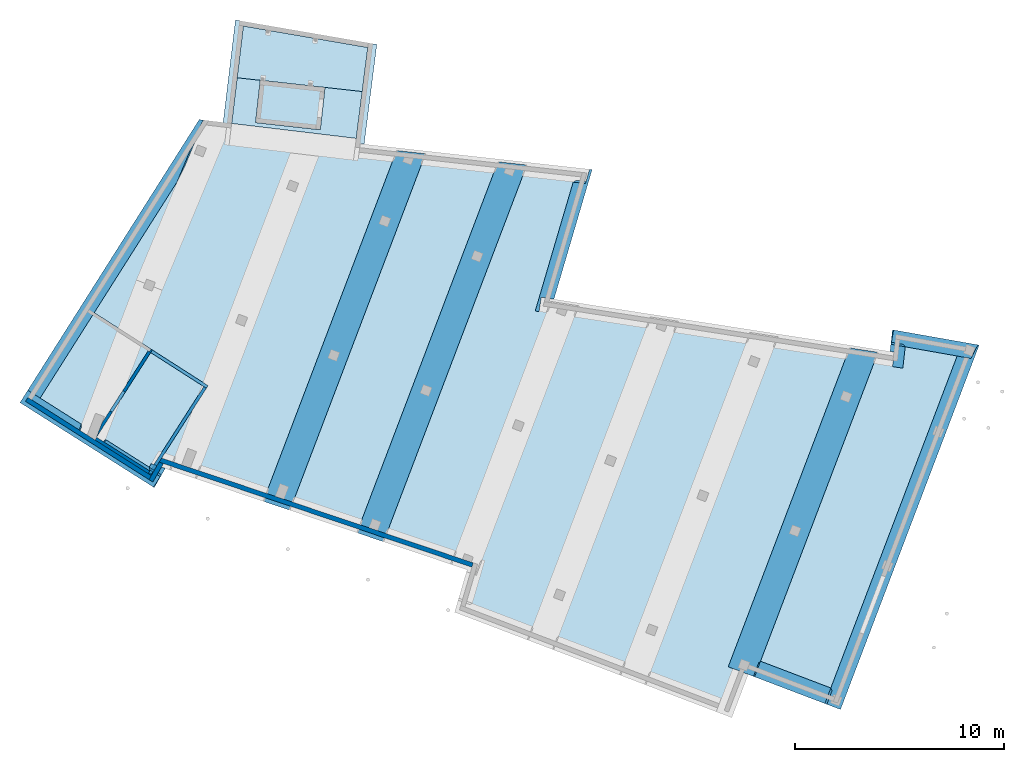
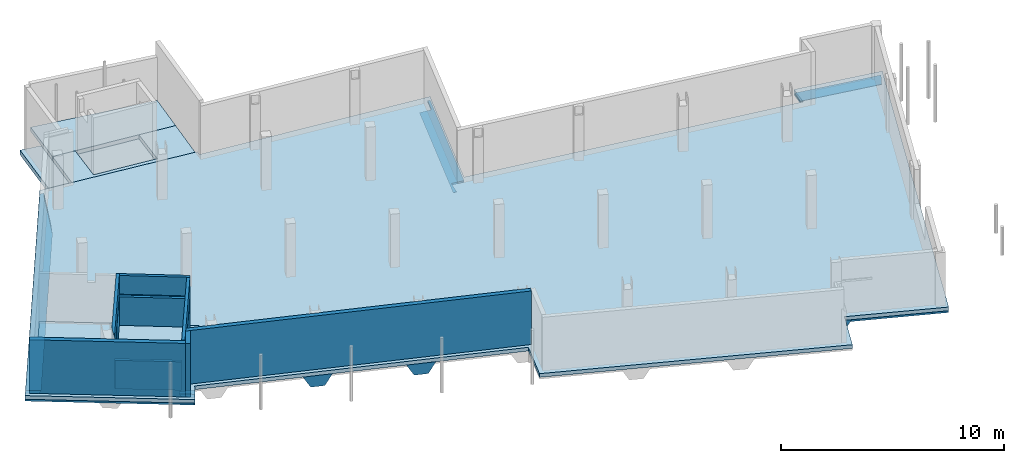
# One storey, part 6 of 11: 11 beams, 10 walls, 5 slabs, 1 opening.
"""IFC2X3 building model written with IfcOpenShell, lengths in millimetres."""

from ifc_helpers import new_model, entity, si_unit, converted_unit, derived_unit, direction, frame, frame_2d, origin, place, context, subcontext, project, spatial, polyline, rectangle, outline, extrude, clip, halfspace, bounded_halfspace, faceted_brep, material, layer, layer_set, layer_usage, type_object, element, save


model = new_model("IFC2X3")

# Units and contexts
model_context = context("Model", 3, precision=0.01, world=origin(), true_north=direction((6.123233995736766e-17, 1.0)))
body_context = subcontext(model_context, "Body", "Model", "MODEL_VIEW")
ifc_project = project(units=[si_unit("LENGTHUNIT", "METRE", prefix="MILLI"), converted_unit("PLANEANGLEUNIT", "DEGREE", entity("IfcPlaneAngleMeasure", 0.017453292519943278), si_unit("PLANEANGLEUNIT", "RADIAN"), dimensions=[0, 0, 0, 0, 0, 0, 0]), si_unit("AREAUNIT", "SQUARE_METRE"), derived_unit("THERMALTRANSMITTANCEUNIT", [(si_unit("MASSUNIT", "GRAM", prefix="KILO"), 1), (si_unit("THERMODYNAMICTEMPERATUREUNIT", "KELVIN"), -1), (si_unit("TIMEUNIT", "SECOND"), -3)])], contexts=[model_context])

# Site, building, storey
site_placement = place(None, frame((-72937.88054949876, 11621.45624098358, 0.0), z_axis=(0.0, 0.0, 1.0), x_axis=(0.9346418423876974, -0.35559053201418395, 0.0)))
site = spatial("IfcSite", under=ifc_project, at=site_placement, Name="Default", CompositionType="ELEMENT")
building_placement = place(site_placement, origin())
building = spatial("IfcBuilding", under=site, at=building_placement, CompositionType="ELEMENT")
storey_placement = place(building_placement, frame((0.0, 0.0, -3160.0)))
storey = spatial("IfcBuildingStorey", under=building, at=storey_placement, Name="-1 kelder", CompositionType="ELEMENT", Elevation=-3160.0)

# Beams
ifc_material_1 = material(Name="beton_gewapend_ihw")
beam_type_1 = type_object("IfcBeamType", Name="650x600mm", PredefinedType="BEAM")
beam_1_placement = place(storey_placement, frame((29190.0, 14252.403395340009, -200.0), z_axis=(0.0, 0.0, 1.0), x_axis=(0.0, 1.0, 0.0)))
element("IfcBeam", 1, at=beam_1_placement, inside=storey, type_object=beam_type_1, material=ifc_material_1, Name="16.12_Beton balk", ObjectType="i.h.w.g. versterkte betonnen strook", context=body_context, shape_type="SweptSolid", body=[
    clip(clip(extrude(outline(polyline([(-325.0, -300.0), (325.0, -300.0), (675.0, 300.0), (-675.0, 300.0), (-325.0, -300.0)])), frame((73.28059421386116, 0.0, -300.0), z_axis=(1.0, 0.0, 0.0), x_axis=(0.0, 1.0, 0.0)), (0.0, 0.0, 1.0), 19367.69822920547), halfspace(frame((19079.916189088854, 723.0886842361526, 19180.0), z_axis=(0.9682328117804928, 0.2500504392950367, 0.0), x_axis=(0.0, 0.0, -1.0)), False)), halfspace(frame((130.96403280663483, -782.2300507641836, 19180.0), z_axis=(-0.9992174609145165, -0.03955332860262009, 0.0), x_axis=(0.0, 0.0, -1.0)), False)),
])
beam_2_placement = place(storey_placement, frame((24460.0, 14105.169633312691, -200.0), z_axis=(0.0, 0.0, 1.0), x_axis=(0.0, 1.0, 0.0)))
element("IfcBeam", 2, at=beam_2_placement, inside=storey, type_object=beam_type_1, material=ifc_material_1, Name="16.12_Beton balk", ObjectType="i.h.w.g. versterkte betonnen strook", context=body_context, shape_type="SweptSolid", body=[
    clip(clip(extrude(outline(polyline([(-325.0, -300.0), (325.0, -300.0), (675.0, 300.0), (-675.0, 300.0), (-325.0, -300.0)])), frame((33.28059421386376, 0.0, -300.0), z_axis=(1.0, 0.0, 0.0), x_axis=(0.0, 1.0, 0.0)), (0.0, 0.0, 1.0), 18333.38840845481), halfspace(frame((17998.169867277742, 751.8839319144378, 18160.0), z_axis=(0.9682328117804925, 0.2500504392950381, 0.0), x_axis=(0.0, 0.0, -1.0)), False)), halfspace(frame((89.43372026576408, -743.570472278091, 18160.0), z_axis=(-0.9992174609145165, -0.03955332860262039, 0.0), x_axis=(0.0, 0.0, -1.0)), False)),
])
beam_3_placement = place(storey_placement, frame((48110.0, 14650.0, -200.0), z_axis=(0.0, 0.0, 1.0), x_axis=(0.0, 1.0, 0.0)))
element("IfcBeam", 3, at=beam_3_placement, inside=storey, type_object=beam_type_1, material=ifc_material_1, Name="16.12_Beton balk", ObjectType="i.h.w.g. versterkte betonnen strook", context=body_context, shape_type="SweptSolid", body=[
    clip(extrude(outline(polyline([(-325.0, -300.0), (325.0, -300.0), (675.0, 300.0), (-675.0, 300.0), (-325.0, -300.0)])), frame((0.0, 0.0, -300.0), z_axis=(1.0, 0.0, 0.0), x_axis=(0.0, 1.0, 0.0)), (0.0, 0.0, 1.0), 16638.079984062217), halfspace(frame((16654.269103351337, -751.2321760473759, -16960.0), z_axis=(0.9781855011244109, 0.20773330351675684, 0.0), x_axis=(0.0, 0.0, 1.0)), False)),
])
beam_type_2 = type_object("IfcBeamType", Name="650x600mm", PredefinedType="BEAM")
beam_4_placement = place(storey_placement, frame((52390.0, 14650.0, -300.0), z_axis=(0.0, 0.0, 1.0), x_axis=(0.0, 1.0, 0.0)))
element("IfcBeam", 4, at=beam_4_placement, inside=storey, type_object=beam_type_2, material=ifc_material_1, Name="16.12_Beton balk", ObjectType="i.h.w.g. versterkte betonnen strook", context=body_context, shape_type="Brep", body=[
    faceted_brep([(0.0, -100.0, 0.0), (0.0, 0.0, 100.0), (800.0, 0.0, 100.0), (17820.452758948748, 0.0, 100.0), (17941.36320135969, -100.0, 0.0), (700.0, -100.0, 0.0), (0.0, -800.0, 0.0), (18050.450203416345, -671.0673696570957, 0.0), (18675.17564065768, -743.7108873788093, 0.0), (18685.928155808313, -800.0, 0.0), (18685.92815580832, -800.0, 100.0), (0.0, -800.0, 100.0), (18675.17564065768, -743.7108873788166, 100.0), (17946.32929720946, -658.9601167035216, 100.0)], [[[0, 1, 2, 3, 4, 5]], [[6, 0, 5, 4, 7, 8, 9]], [[10, 11, 6, 9]], [[11, 10, 12, 13, 3, 2, 1]], [[0, 6, 11, 1]], [[10, 9, 8, 12]], [[13, 7, 4, 3]], [[7, 13, 12, 8]]]),
])
beam_5_placement = place(storey_placement, frame((48460.0, 14650.0, 0.0)))
element("IfcBeam", 5, at=beam_5_placement, inside=storey, type_object=beam_type_2, material=ifc_material_1, Name="16.12_Beton balk", ObjectType="i.h.w.g. versterkte betonnen strook", context=body_context, shape_type="SweptSolid", body=[
    clip(clip(extrude(outline(polyline([(-50.0, -375.0), (50.0, -375.0), (50.0, 325.0), (-50.0, 425.0), (-50.0, -375.0)])), frame((266.6666666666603, 375.0, -250.0), z_axis=(1.0, 0.0, 0.0), x_axis=(0.0, 0.0, -1.0)), (0.0, 0.0, 1.0), 3763.333333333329), halfspace(frame((-25.0, 0.0, -800.0), z_axis=(-0.863778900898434, 0.0, 0.5038710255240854), x_axis=(0.0, 1.0, 0.0)), False)), halfspace(frame((3730.0, 1152.4000000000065, 0.0), z_axis=(0.7071067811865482, 0.0, 0.707106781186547), x_axis=(0.0, 1.0, 0.0)), False)),
])
beam_type_3 = type_object("IfcBeamType", Name="650x600mm", PredefinedType="BEAM", material=ifc_material_1)
beam_6_placement = place(storey_placement, frame((11210.140041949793, 12902.18547272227, -300.0), z_axis=(0.0, 0.0, 1.0), x_axis=(0.9798626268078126, -0.19967281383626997, 0.0)))
element("IfcBeam", 6, at=beam_6_placement, inside=storey, type_object=beam_type_3, material=ifc_material_1, Name="16.12_Beton balk", ObjectType="i.h.w.g. versterkte betonnen strook", context=body_context, shape_type="Brep", body=[
    faceted_brep([(-302.0870984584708, 2182.4444656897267, 100.0), (397.9129015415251, 2182.4444656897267, 100.0), (2734.1436005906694, 2182.4444656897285, 100.0), (2814.0533885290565, 2082.444465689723, 0.0), (297.91290154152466, 2082.4444656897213, 0.0), (-302.0870984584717, 2082.444465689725, 0.0), (7274.860810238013, 2082.444465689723, 0.0), (7274.860810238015, 1482.4444656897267, 0.0), (-302.0870984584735, 1482.4444656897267, 0.0), (2872.129643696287, 1797.4444656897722, 0.0), (4130.809482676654, 1797.4444656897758, 0.0), (4072.7332275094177, 2082.444465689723, 0.0), (6686.946603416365, 2082.444465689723, 0.0), (7274.8608102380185, 1482.4444656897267, 100.0), (-302.08709845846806, 1482.4444656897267, 100.0), (7274.860810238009, 2182.4444656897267, 100.0), (6582.652845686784, 2182.4444656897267, 100.0), (4111.88774866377, 2182.4444656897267, 100.0), (4190.34163722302, 1797.4444656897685, 100.0), (2812.5974891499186, 1797.444465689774, 100.0)], [[[0, 1, 2, 3, 4, 5]], [[6, 7, 8, 5, 4, 3, 9, 10, 11, 12]], [[8, 7, 13, 14]], [[7, 6, 15, 13]], [[2, 1, 0, 14, 13, 15, 16, 17, 18, 19]], [[19, 9, 3, 2]], [[10, 18, 17, 11]], [[9, 19, 18, 10]], [[17, 16, 15, 6, 12, 11]], [[5, 8, 14, 0]]]),
])
beam_7_placement = place(storey_placement, frame((18096.01037819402, 12894.628188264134, -300.0), z_axis=(0.0, 0.0, 1.0), x_axis=(0.1583260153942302, 0.9873868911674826, 0.0)))
element("IfcBeam", 7, at=beam_7_placement, inside=storey, type_object=beam_type_3, material=ifc_material_1, Name="16.12_Beton balk", ObjectType="i.h.w.g. versterkte betonnen strook", context=body_context, shape_type="Brep", body=[
    faceted_brep([(1031.8559354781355, 31.675984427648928, 0.0), (716.8924546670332, 31.675984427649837, 0.0), (821.1862123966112, 131.67598442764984, 100.0), (1011.7349404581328, 131.6759844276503, 100.0), (692.1903141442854, -555.7190435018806, 0.0), (1152.5819055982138, -568.324015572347, 0.0), (91.12990828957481, -568.3240155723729, 0.0), (92.72016583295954, -530.5090993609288, 0.0), (1152.5819055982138, -568.324015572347, 100.0), (91.129908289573, -568.324015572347, 100.0), (92.7201658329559, -530.5090993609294, 100.0), (792.1020055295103, -559.9207008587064, 100.0)], [[[0, 1, 2, 3]], [[4, 1, 0, 5, 6, 7]], [[6, 5, 8, 9]], [[7, 6, 9, 10]], [[1, 4, 11, 2]], [[5, 0, 3, 8]], [[3, 2, 11, 10, 9, 8]], [[4, 7, 10, 11]]]),
])
beam_8_placement = place(storey_placement, frame((11329.943730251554, 14883.20986972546, -300.0), z_axis=(0.0, 0.0, 1.0), x_axis=(-0.19967281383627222, -0.979862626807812, 0.0)))
element("IfcBeam", 8, at=beam_8_placement, inside=storey, type_object=beam_type_3, material=ifc_material_1, Name="16.12_Beton balk", ObjectType="i.h.w.g. versterkte betonnen strook", context=body_context, shape_type="Brep", body=[
    faceted_brep([(-13406.319318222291, 576.0784604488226, 0.0), (-12477.776913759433, 676.0784604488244, 100.0), (-217.391156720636, 676.0784604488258, 100.0), (-117.39115672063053, 576.0784604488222, 0.0), (-15672.674395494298, 187.5467018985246, 0.0), (-117.39115672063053, -23.92153955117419, 0.0), (-15571.769329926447, -23.921539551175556, 0.0), (-15571.769329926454, -23.921539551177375, 100.0), (-217.39115672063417, -23.921539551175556, 100.0), (-15452.653497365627, 166.0815751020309, 100.0), (-15662.432006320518, 166.0815751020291, 100.0), (-15662.432006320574, 166.0815751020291, 39.23509359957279)], [[[0, 1, 2, 3]], [[4, 0, 3, 5, 6]], [[7, 6, 5, 8]], [[1, 9, 10, 7, 8, 2]], [[11, 9, 1, 0, 4]], [[3, 2, 8, 5]], [[9, 11, 10]], [[6, 7, 10, 11, 4]]]),
])
beam_9_placement = place(storey_placement, frame((32229.95961331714, 27295.11920070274, -300.0), z_axis=(0.0, 0.0, 1.0), x_axis=(-0.07713007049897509, 0.997021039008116, 0.0)))
element("IfcBeam", 9, at=beam_9_placement, inside=storey, type_object=beam_type_3, material=ifc_material_1, Name="16.12_Beton balk", ObjectType="i.h.w.g. versterkte betonnen strook", context=body_context, shape_type="Brep", body=[
    faceted_brep([(6401.197099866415, -495.19996496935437, 100.0), (6520.492657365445, -595.1999649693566, 0.0), (681.1211182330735, -595.1999649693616, 0.0), (680.0036277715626, -586.7866043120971, 8.413360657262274), (616.6611295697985, -595.1999649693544, 0.0), (75.85164768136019, -595.1999649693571, 0.0), (-38.30892901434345, -495.199964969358, 100.0), (85.2272223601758, -665.7867787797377, 0.0), (7236.266002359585, -1195.199964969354, 0.0), (7236.266002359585, -1195.199964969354, 100.0), (760.815107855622, -1195.199964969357, 100.0), (760.8151078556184, -1195.199964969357, 0.0), (6605.684108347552, -1075.5558515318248, 0.0), (6504.123620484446, -1075.5558515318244, 100.0), (-13.902178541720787, -678.9534745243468, 100.0), (680.0036277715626, -586.7866043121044, 100.0), (7215.047035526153, -1075.555851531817, 100.0), (7215.047035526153, -1075.5558515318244, 0.0)], [[[0, 1, 2, 3, 4, 5, 6]], [[7, 5, 4]], [[8, 9, 10, 11]], [[12, 1, 0, 13]], [[0, 6, 14, 15, 10, 9, 16, 13]], [[6, 5, 7, 14]], [[3, 15, 14, 7, 4]], [[15, 3, 2, 11, 10]], [[8, 17, 16, 9]], [[17, 12, 13, 16]], [[1, 12, 17, 8, 11, 2]]]),
])
beam_10_placement = place(storey_placement, frame((53133.71088737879, 33325.175640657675, 0.0), z_axis=(0.0, 0.0, 1.0), x_axis=(-0.9822397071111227, -0.18763037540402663, 0.0)))
element("IfcBeam", 10, at=beam_10_placement, inside=storey, type_object=beam_type_3, material=ifc_material_1, Name="16.12_Beton balk", ObjectType="i.h.w.g. versterkte betonnen strook", context=body_context, shape_type="SweptSolid", body=[
    clip(extrude(outline(polyline([(-50.0, -325.0), (50.0, -325.0), (50.0, 275.0), (-50.0, 375.0), (-50.0, -325.0)])), frame((0.0, 325.0, -250.0), z_axis=(1.0, 0.0, 0.0), x_axis=(0.0, 0.0, -1.0)), (0.0, 0.0, 1.0), 4105.526742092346), halfspace(frame((-34.639754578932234, -110.21775904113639, 4013.403162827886), z_axis=(-0.9539939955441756, 0.2998257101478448, 0.0), x_axis=(0.0, 0.0, -1.0)), False)),
])
beam_11_placement = place(storey_placement, frame((49044.2509841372, 30894.17498784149, -300.0), z_axis=(0.0, 0.0, 1.0), x_axis=(0.25027842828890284, -0.9681739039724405, 0.0)))
element("IfcBeam", 11, at=beam_11_placement, inside=storey, type_object=beam_type_3, material=ifc_material_1, Name="16.12_Beton balk", ObjectType="i.h.w.g. versterkte betonnen strook", context=body_context, shape_type="Brep", body=[
    faceted_brep([(-850.851539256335, 1112.914295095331, 100.0), (179.63511667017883, 1112.91429509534, 100.0), (75.16565499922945, 1012.914295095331, 0.0), (-957.4888097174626, 1012.914295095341, 0.0), (-994.8350252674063, 432.1666682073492, 0.0), (57.72369653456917, 614.1365350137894, 0.0), (-541.7032075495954, 640.3545948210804, 0.0), (-551.6511150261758, 412.9142950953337, 0.0), (-1597.312432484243, 412.9142950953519, 0.0), (-1593.5982376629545, 470.67141443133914, 0.0), (-551.651115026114, 412.914295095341, 100.0), (-1597.3124324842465, 412.91429509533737, 100.0), (-1593.5982376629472, 470.6714144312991, 100.0), (-895.0411565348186, 425.74921050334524, 100.0), (-541.7032075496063, 640.3545948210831, 100.0), (157.62818054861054, 609.766858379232, 100.0)], [[[0, 1, 2, 3]], [[4, 3, 2, 5, 6, 7, 8, 9]], [[10, 11, 8, 7]], [[9, 8, 11, 12]], [[3, 4, 13, 0]], [[1, 0, 13, 12, 11, 10, 14, 15]], [[6, 14, 10, 7]], [[14, 6, 5, 15]], [[2, 1, 15, 5]], [[4, 9, 12, 13]]]),
])

# Slabs
ifc_layer_1 = layer(ifc_material_1, 200.0)
ifc_layer_set_1 = layer_set([ifc_layer_1], Name="Foundation Slab:13.22_SFO_Beton200mm")
ifc_layer_usage_1 = layer_usage(ifc_layer_set_1, "AXIS3", "POSITIVE", 0.0)
slab_type_1 = type_object("IfcSlabType", Name="13.22_SFO_Beton200mm", PredefinedType="BASESLAB", material=ifc_layer_set_1)
slab_1_placement = place(storey_placement, origin())
element("IfcSlab", 12, at=slab_1_placement, inside=storey, type_object=slab_type_1, material=ifc_layer_usage_1, Name="Foundation Slab:13.22_SFO_Beton200mm", ObjectType="Foundation Slab:13.22_SFO_Beton200mm", PredefinedType="BASESLAB", context=body_context, shape_type="SweptSolid", body=[
    extrude(outline(polyline([(-14512.940702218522, -10320.356680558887), (-302.8335830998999, -10320.356680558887), (-136.38858467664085, -8207.23163094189), (15107.409536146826, -8810.646783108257), (15275.465001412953, -9858.710570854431), (22736.919255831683, -8338.242777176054), (19531.296391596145, 7392.842391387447), (12071.461685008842, 9251.54032371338), (12016.787173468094, 9025.129847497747), (1083.5938804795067, 11848.675747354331), (584.1418964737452, 5392.514968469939), (-15358.898157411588, 8778.273983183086), (-15097.191686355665, 9790.655983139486), (-19242.940702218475, 10582.589396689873), (-19242.940702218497, -8103.338759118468), (-14512.940702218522, -8103.338759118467), (-14512.940702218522, -10320.356680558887)])), frame((33947.059297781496, 22753.338759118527, 0.0), z_axis=(0.0, 0.0, -1.0), x_axis=(-1.0, 0.0, 0.0)), (0.0, 0.0, 1.0), 200.0),
])
ifc_layer_2 = layer(ifc_material_1, 250.00000000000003)
ifc_layer_set_2 = layer_set([ifc_layer_2], Name="Foundation Slab:13.22_SFO_Beton250mm")
ifc_layer_usage_2 = layer_usage(ifc_layer_set_2, "AXIS3", "POSITIVE", 0.0)
slab_type_2 = type_object("IfcSlabType", Name="13.22_SFO_Beton250mm", PredefinedType="BASESLAB", material=ifc_layer_set_2)
slab_2_placement = place(storey_placement, origin())
element("IfcSlab", 13, at=slab_2_placement, inside=storey, type_object=slab_type_2, material=ifc_layer_usage_2, Name="Foundation Slab:13.22_SFO_Beton250mm", ObjectType="Foundation Slab:13.22_SFO_Beton250mm", PredefinedType="BASESLAB", context=body_context, shape_type="SweptSolid", body=[
    extrude(outline(polyline([(-3557.5861498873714, -2491.008907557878), (3318.5077979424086, -2491.0089075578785), (3531.1005213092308, 2315.3507589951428), (-3292.022169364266, 2666.667056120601), (-3557.5861498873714, -2491.008907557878)])), frame((18309.122658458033, 33459.63296960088, -1300.0), z_axis=(0.0, 0.0, -1.0), x_axis=(0.9814821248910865, 0.19155374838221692, 0.0)), (0.0, 0.0, 1.0), 250.00000000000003),
])
ifc_material_2 = material(Name="beton_gewapend_ihw_c20/25")
ifc_layer_3 = layer(ifc_material_2, 50.0)
ifc_material_3 = material(Name="hout_vuren_generiek_c24")
ifc_layer_4 = layer(ifc_material_3, 171.0)
ifc_layer_set_3 = layer_set([ifc_layer_3, ifc_layer_4], Name="Floor:23.21_FL_Lewisvloer50-171")
ifc_layer_usage_3 = layer_usage(ifc_layer_set_3, "AXIS3", "POSITIVE", 0.0)
slab_type_3 = type_object("IfcSlabType", Name="23.21_FL_Lewisvloer50-171", PredefinedType="FLOOR", material=ifc_layer_set_3)
slab_3_placement = place(storey_placement, origin())
element("IfcSlab", 14, at=slab_3_placement, inside=storey, type_object=slab_type_3, material=ifc_layer_usage_3, Name="beton 250mm", ObjectType="{$type(\"IfcObjectType[Type]\")}", PredefinedType="FLOOR", context=body_context, shape_type="SweptSolid", body=[
    extrude(outline(polyline([(-1122.1093267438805, -3174.498236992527), (1141.601476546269, -3174.498236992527), (1185.1479725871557, 2839.090077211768), (-1020.9036473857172, 2855.0648684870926), (-1039.6096919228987, 1740.608874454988), (1000.1030008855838, 1706.3724786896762), (947.7414544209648, -1413.1881103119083), (-1091.971238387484, -1378.9517145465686), (-1122.1093267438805, -3174.498236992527)])), frame((18415.08255347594, 32342.81739355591, 0.0), z_axis=(0.0, 0.0, -1.0), x_axis=(0.2347367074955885, -0.972058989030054, 0.0)), (0.0, 0.0, 1.0), 221.0000000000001),
])
ifc_layer_usage_4 = layer_usage(ifc_layer_set_3, "AXIS3", "POSITIVE", 0.0)
slab_4_placement = place(storey_placement, origin())
element("IfcSlab", 15, at=slab_4_placement, inside=storey, type_object=slab_type_3, material=ifc_layer_usage_4, Name="beton 250mm", ObjectType="{$type(\"IfcObjectType[Type]\")}", PredefinedType="FLOOR", context=body_context, shape_type="SweptSolid", body=[
    extrude(outline(polyline([(-3082.3868962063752, -1154.9614378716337), (2971.1664017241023, -1154.9614378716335), (3065.209365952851, 971.1899328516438), (-2953.9888714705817, 1338.7329428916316), (-3082.3868962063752, -1154.9614378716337)])), frame((18042.998577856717, 34544.798330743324, 0.0), z_axis=(0.0, 0.0, -1.0), x_axis=(0.9814821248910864, 0.19155374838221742, 0.0)), (0.0, 0.0, 1.0), 221.0000000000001),
])
ifc_material_4 = material(Name="beton_gewapend_ihw_c30/37")
ifc_layer_5 = layer(ifc_material_4, 200.0)
ifc_layer_set_4 = layer_set([ifc_layer_5], Name="Floor:23.21_FL_Beton200mm-C30/37")
ifc_layer_usage_5 = layer_usage(ifc_layer_set_4, "AXIS3", "POSITIVE", 0.0)
slab_type_4 = type_object("IfcSlabType", Name="23.21_vloer", PredefinedType="FLOOR", material=ifc_layer_set_4)
slab_5_placement = place(storey_placement, origin())
element("IfcSlab", 16, at=slab_5_placement, inside=storey, type_object=slab_type_4, material=ifc_layer_usage_5, Name="beton 250mm", ObjectType="{$type(\"IfcObjectType[Type]\")}", PredefinedType="FLOOR", context=body_context, shape_type="SweptSolid", body=[
    extrude(outline(polyline([(-2972.2797842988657, -3087.949402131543), (101.65986283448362, -3087.949402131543), (101.65986283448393, -2862.9494021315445), (947.3093678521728, -2862.9494021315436), (987.5676145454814, -1845.9239212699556), (1944.907022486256, -1692.4159749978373), (1311.2713238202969, 1417.0505978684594), (101.65986283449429, 1417.050597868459), (101.65986283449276, 1867.0505978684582), (1219.571973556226, 1867.0505978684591), (591.6866794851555, 4948.297973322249), (-4436.673648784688, 3923.63713999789), (-2972.2797842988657, -3087.949402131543)])), frame((16642.05059786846, 15326.65986283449, 200.0), z_axis=(0.0, 0.0, -1.0), x_axis=(0.0, -1.0, 0.0)), (0.0, 0.0, 1.0), 200.0),
])

# Walls
ifc_layer_6 = layer(ifc_material_1, 220.0)
ifc_layer_set_5 = layer_set([ifc_layer_6], Name="Basic Wall:22.21_WA_Beton 220mm")
ifc_layer_usage_6 = layer_usage(ifc_layer_set_5, "AXIS2", "NEGATIVE", 110.0)
wall_type_1 = type_object("IfcWallType", Name="22.21_muur", PredefinedType="STANDARD", material=ifc_layer_set_5)
wall_1_placement = place(storey_placement, frame((34254.16217402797, 14853.099680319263, 0.0), z_axis=(0.0, 0.0, 1.0), x_axis=(-0.9992174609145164, -0.03955332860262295, 0.0)))
element("IfcWallStandardCase", 17, at=wall_1_placement, inside=storey, type_object=wall_type_1, material=ifc_layer_usage_6, Name="Basic Wall:22.21_WA_Beton 220mm", ObjectType="Basic Wall:22.21_WA_Beton 220mm", context=body_context, shape_type="Clipping", body=[
    clip(extrude(outline(polyline([(15774.180701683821, -110.0), (15818.446890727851, 110.0), (15594.037676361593, 110.0), (0.0, 110.0), (8.59344874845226, -110.0), (104.89339105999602, -110.0), (555.2458094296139, -110.0), (4838.597699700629, -110.0), (5288.950118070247, -110.0), (9572.302008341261, -110.0), (10022.654426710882, -110.0), (14306.006316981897, -110.0), (14756.358735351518, -110.0), (15774.180701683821, -110.0)])), origin(), (0.0, 0.0, 1.0), 2930.0), bounded_halfspace(frame((8.593448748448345, -110.0, 2930.0), z_axis=(0.0, 0.0, -1.0), x_axis=(-0.23827339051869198, -0.9711981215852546, 0.0)), True, frame((8.593448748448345, -110.0, 2930.0), z_axis=(0.0, 0.0, -1.0), x_axis=(-0.23827339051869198, -0.9711981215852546, 0.0)), polyline([(0.0, 0.0), (-211.61599657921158, 60.76608719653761), (-3927.2602256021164, -15084.134012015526), (-3980.7309699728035, -15302.07981947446), (-3756.5199282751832, -15311.508725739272), (-3514.000037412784, -14323.001943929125), (-3406.6930397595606, -13885.620521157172), (-2386.0842620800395, -9725.637211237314), (-2278.7772644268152, -9288.25578846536), (-1258.1684867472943, -5128.272478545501), (-1150.861489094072, -4690.891055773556), (-130.25271141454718, -530.9077458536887), (-22.94571376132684, -93.52632308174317), (0.0, 0.0)]))),
])
ifc_layer_usage_7 = layer_usage(ifc_layer_set_5, "AXIS2", "NEGATIVE", 110.0)
wall_2_placement = place(storey_placement, frame((18568.065749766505, 14143.80552485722, 0.0), z_axis=(0.0, 0.0, 1.0), x_axis=(-0.1583260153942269, -0.9873868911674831, 0.0)))
element("IfcWallStandardCase", 18, at=wall_2_placement, inside=storey, type_object=wall_type_1, material=ifc_layer_usage_7, Name="Basic Wall:22.21_WA_Beton 220mm", ObjectType="Basic Wall:22.21_WA_Beton 220mm", context=body_context, shape_type="Clipping", body=[
    clip(extrude(outline(polyline([(1009.6201086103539, -110.0), (1018.871924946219, 110.0), (0.0, 110.0), (44.26618904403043, -110.0), (789.425657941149, -110.0), (1009.6201086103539, -110.0)])), origin(), (0.0, 0.0, 1.0), 2930.0), bounded_halfspace(frame((44.26618904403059, -110.0, 2930.0), z_axis=(0.0, 0.0, -1.0), x_axis=(-0.9991169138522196, 0.042016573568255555, 0.0)), True, frame((44.26618904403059, -110.0, 2930.0), z_axis=(0.0, 0.0, -1.0), x_axis=(-0.9991169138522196, 0.042016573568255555, 0.0)), polyline([(0.0, 0.0), (53.470744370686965, 217.94580745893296), (-964.5014288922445, 260.75531465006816), (-964.5014288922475, 40.56086398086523), (-744.501428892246, 31.30904764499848), (0.0, 0.0)]))),
])
ifc_layer_usage_8 = layer_usage(ifc_layer_set_5, "AXIS2", "NEGATIVE", 110.0)
wall_3_placement = place(storey_placement, frame((18321.568072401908, 13272.12061519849, 0.0), z_axis=(0.0, 0.0, 1.0), x_axis=(-0.9798626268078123, 0.19967281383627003, 0.0)))
element("IfcWallStandardCase", 19, at=wall_3_placement, inside=storey, type_object=wall_type_1, material=ifc_layer_usage_8, Name="Basic Wall:22.21_WA_Beton 220mm", ObjectType="Basic Wall:22.21_WA_Beton 220mm", context=body_context, shape_type="Clipping", body=[
    clip(extrude(outline(polyline([(7006.440543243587, -110.0), (7006.440543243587, 110.0), (0.0, 110.0), (9.251816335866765, -110.0), (3182.621723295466, -110.0), (3641.8697726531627, -110.0), (6786.440543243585, -110.0), (7006.440543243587, -110.0)])), origin(), (0.0, 0.0, 1.0), 2930.0), bounded_halfspace(frame((9.251816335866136, -110.0, 2930.0), z_axis=(0.0, 0.0, -1.0), x_axis=(0.0, -1.0, 0.0)), True, frame((9.251816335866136, -110.0, 2930.0), z_axis=(0.0, 0.0, -1.0), x_axis=(0.0, -1.0, 0.0)), polyline([(0.0, 0.0), (-220.0, 9.251816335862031), (-220.0, -6997.188726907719), (0.0, -6997.188726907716), (0.0, -6777.188726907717), (0.0, -3632.6179563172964), (0.0, -3173.3699069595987), (0.0, 0.0)]))),
])

# Wall, opening
ifc_material_5 = material(Name="steenachtig_kalkzandsteen_generiek")
ifc_layer_7 = layer(ifc_material_5, 150.0)
ifc_layer_set_6 = layer_set([ifc_layer_7], Name="Basic Wall:22.21_WA_Kalkzandsteen150mm")
ifc_layer_usage_9 = layer_usage(ifc_layer_set_6, "AXIS2", "NEGATIVE", 75.0)
wall_type_2 = type_object("IfcWallType", Name="NLRS_22_WA_LIB_Muur_gen_EPA:Kalkzandsteen 200mm", PredefinedType="STANDARD", material=ifc_layer_set_6)
wall_4_placement = place(storey_placement, frame((15151.584101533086, 14167.421005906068, 200.0), z_axis=(0.0, 0.0, 1.0), x_axis=(0.204442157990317, 0.9788786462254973, 0.0)))
wall_4 = element("IfcWallStandardCase", 20, at=wall_4_placement, inside=storey, type_object=wall_type_2, material=ifc_layer_usage_9, Name="Basic Wall:22.21_WA_Kalkzandsteen150mm", ObjectType="Basic Wall:22.21_WA_Kalkzandsteen150mm", context=body_context, shape_type="Clipping", body=[
    clip(extrude(outline(polyline([(4830.2766008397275, 75.0), (718.207038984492, 75.0), (0.0, -75.0), (4830.2766008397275, -75.0), (4830.2766008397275, 75.0)])), origin(), (0.0, 0.0, 1.0), 1560.0), bounded_halfspace(frame((0.0, -75.0, 0.0), z_axis=(0.204442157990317, -0.9788786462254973, 0.0), x_axis=(0.0, 0.0, -1.0)), True, frame((0.0, -75.0, 0.0), z_axis=(0.204442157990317, -0.9788786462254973, 0.0), x_axis=(0.0, 0.0, -1.0)), polyline([(0.0, 0.0), (0.0, 733.7038577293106), (-1560.0, 733.7038577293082), (-1560.0, 0.0), (0.0, 0.0)]))),
])
opening_placement = place(wall_4_placement, frame((-16965.80844545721, 11935.144009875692, 0.0)))
element("IfcOpeningElement", 21, at=opening_placement, cuts=wall_4, Name="31.10_Constructiesparing", ObjectType="Opening", context=body_context, shape_type="SweptSolid", body=[
    extrude(rectangle(XDim=1669.9999999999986, YDim=1150.0000000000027, at=frame_2d((2.8421709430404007e-13, 2.3305801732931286e-12), x_axis=(1.0, 0.0))), frame((18968.017916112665, -12010.144009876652, 835.0), z_axis=(0.0, 1.0, 0.0), x_axis=(0.0, 0.0, -1.0)), (0.0, 0.0, 1.0), 150.00000000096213),
])

# Walls
ifc_layer_usage_10 = layer_usage(ifc_layer_set_6, "AXIS2", "NEGATIVE", 75.0)
wall_5_placement = place(storey_placement, frame((19242.14158203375, 18247.59398500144, 200.0), z_axis=(0.0, 0.0, 1.0), x_axis=(-0.20444215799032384, -0.9788786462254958, 0.0)))
element("IfcWallStandardCase", 22, at=wall_5_placement, inside=storey, type_object=wall_type_2, material=ifc_layer_usage_10, Name="Basic Wall:22.21_WA_Kalkzandsteen150mm", ObjectType="Basic Wall:22.21_WA_Kalkzandsteen150mm", context=body_context, shape_type="SweptSolid", body=[
    extrude(outline(polyline([(4949.517830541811, -75.0), (4948.787355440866, 75.0), (0.0, 75.0), (0.0, -75.0), (4799.516051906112, -75.0), (4949.517830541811, -75.0)])), origin(), (0.0, 0.0, 1.0), 1560.0),
])
ifc_layer_usage_11 = layer_usage(ifc_layer_set_6, "AXIS2", "POSITIVE", -75.0)
wall_6_placement = place(storey_placement, frame((15213.30658185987, 14094.31272245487, 200.0), z_axis=(0.0, 0.0, 1.0), x_axis=(0.9798626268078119, -0.19967281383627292, 0.0)))
element("IfcWallStandardCase", 23, at=wall_6_placement, inside=storey, type_object=wall_type_2, material=ifc_layer_usage_11, Name="Basic Wall:22.21_WA_Kalkzandsteen150mm", ObjectType="Basic Wall:22.21_WA_Kalkzandsteen150mm", context=body_context, shape_type="Clipping", body=[
    clip(extrude(outline(polyline([(0.0, 75.0), (-0.07817768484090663, 58.94654012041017), (27.216957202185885, -75.0), (3019.3053347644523, -75.0), (3020.0358098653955, 75.0), (0.0, 75.0)])), origin(), (0.0, 0.0, 1.0), 1560.0), bounded_halfspace(frame((27.216957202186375, -75.0, 0.0), z_axis=(0.9798626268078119, 0.19967281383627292, 0.0), x_axis=(0.0, 0.0, -1.0)), True, frame((27.216957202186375, -75.0, 0.0), z_axis=(0.9798626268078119, 0.19967281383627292, 0.0), x_axis=(0.0, 0.0, -1.0)), polyline([(0.0, 0.0), (0.0, 136.69930504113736), (-1560.0, 136.6993050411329), (-1560.0, 0.0), (0.0, 0.0)]))),
])
ifc_layer_usage_12 = layer_usage(ifc_layer_set_6, "AXIS2", "NEGATIVE", 75.0)
wall_7_placement = place(storey_placement, frame((15151.584101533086, 14167.421005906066, 1910.0), z_axis=(0.0, 0.0, 1.0), x_axis=(0.204442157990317, 0.9788786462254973, 0.0)))
element("IfcWallStandardCase", 24, at=wall_7_placement, inside=storey, type_object=wall_type_2, material=ifc_layer_usage_12, Name="Basic Wall:22.21_WA_Kalkzandsteen150mm", ObjectType="Basic Wall:22.21_WA_Kalkzandsteen150mm", context=body_context, shape_type="Clipping", body=[
    clip(extrude(outline(polyline([(4980.27660083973, 75.0), (718.2070389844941, 75.0), (0.0, -75.0), (4830.2766008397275, -75.0), (4980.27660083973, -75.0), (4980.27660083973, 75.0)])), origin(), (0.0, 0.0, 1.0), 1019.9999999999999), bounded_halfspace(frame((0.0, -75.0, 0.0), z_axis=(0.204442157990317, -0.9788786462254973, 0.0), x_axis=(0.0, 0.0, -1.0)), True, frame((0.0, -75.0, 0.0), z_axis=(0.204442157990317, -0.9788786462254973, 0.0), x_axis=(0.0, 0.0, -1.0)), polyline([(0.0, 0.0), (0.0, 733.7038577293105), (-1020.0, 733.7038577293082), (-1020.0, 0.0), (0.0, 0.0)]))),
])
ifc_layer_usage_13 = layer_usage(ifc_layer_set_6, "AXIS2", "NEGATIVE", 75.0)
wall_8_placement = place(storey_placement, frame((16227.84533381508, 18953.758362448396, 1910.0), z_axis=(0.0, 0.0, 1.0), x_axis=(0.978878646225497, -0.2044421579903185, 0.0)))
element("IfcWallStandardCase", 25, at=wall_8_placement, inside=storey, type_object=wall_type_2, material=ifc_layer_usage_13, Name="Basic Wall:22.21_WA_Kalkzandsteen150mm", ObjectType="Basic Wall:22.21_WA_Kalkzandsteen150mm", context=body_context, shape_type="SweptSolid", body=[
    extrude(rectangle(XDim=3170.000000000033, YDim=150.00000000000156, at=frame_2d((1585.0000000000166, -1.5631940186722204e-13), x_axis=(-1.0, 0.0))), origin(), (0.0, 0.0, 1.0), 1019.9999999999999),
])
ifc_layer_usage_14 = layer_usage(ifc_layer_set_6, "AXIS2", "NEGATIVE", 75.0)
wall_9_placement = place(storey_placement, frame((19242.14158203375, 18247.59398500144, 1910.0), z_axis=(0.0, 0.0, 1.0), x_axis=(-0.20444215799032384, -0.9788786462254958, 0.0)))
element("IfcWallStandardCase", 26, at=wall_9_placement, inside=storey, type_object=wall_type_2, material=ifc_layer_usage_14, Name="Basic Wall:22.21_WA_Kalkzandsteen150mm", ObjectType="Basic Wall:22.21_WA_Kalkzandsteen150mm", context=body_context, shape_type="SweptSolid", body=[
    extrude(rectangle(XDim=4899.273745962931, YDim=150.00000000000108, at=frame_2d((2449.636872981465, 1.0302869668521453e-12), x_axis=(-1.0, 0.0))), origin(), (0.0, 0.0, 1.0), 1019.9999999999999),
])
ifc_layer_usage_15 = layer_usage(ifc_layer_set_6, "AXIS2", "NEGATIVE", 75.0)
wall_10_placement = place(storey_placement, frame((16154.429435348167, 18969.09152429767, 200.0), z_axis=(0.0, 0.0, 1.0), x_axis=(0.978878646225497, -0.2044421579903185, 0.0)))
element("IfcWallStandardCase", 27, at=wall_10_placement, inside=storey, type_object=wall_type_2, material=ifc_layer_usage_15, Name="Basic Wall:22.21_WA_Kalkzandsteen150mm", ObjectType="Basic Wall:22.21_WA_Kalkzandsteen150mm", context=body_context, shape_type="SweptSolid", body=[
    extrude(rectangle(XDim=3245.000000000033, YDim=150.00000000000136, at=frame_2d((1622.5000000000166, -1.5631940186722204e-13), x_axis=(-1.0, 0.0))), origin(), (0.0, 0.0, 1.0), 1560.0),
])

save(model, "model.ifc")
